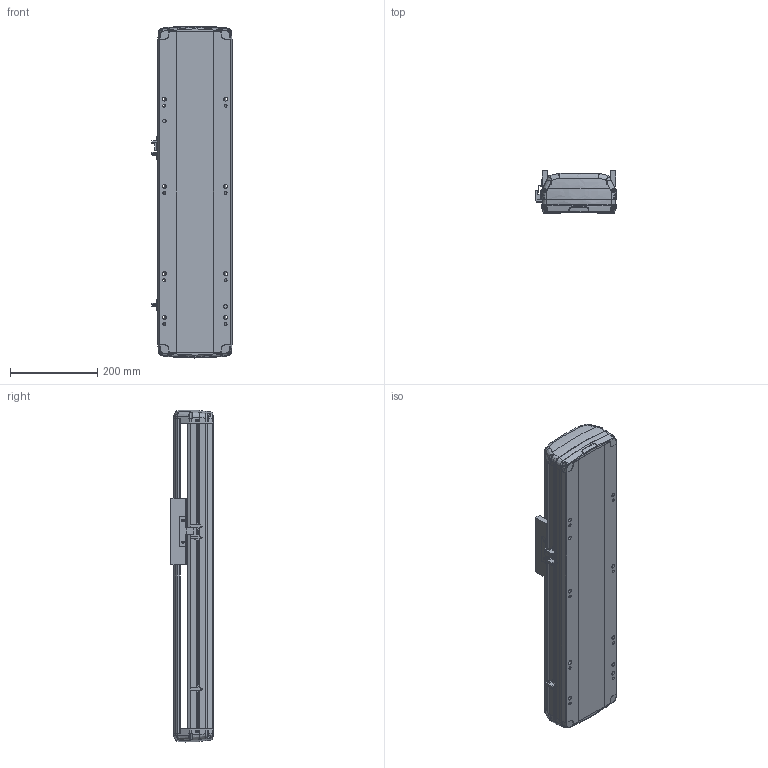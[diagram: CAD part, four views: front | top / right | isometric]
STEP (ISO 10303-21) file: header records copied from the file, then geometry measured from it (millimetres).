
FILE_DESCRIPTION (( 'STEP AP214' ), '1' );
FILE_NAME ('RTH17-XX-350-B-M40-C4.STEP', '2025-10-24T08:31:55', ( '' ), ( '' ), 'SwSTEP 2.0', 'SolidWorks 2018', '' );
FILE_SCHEMA (( 'AUTOMOTIVE_DESIGN' ));
Length unit declared in the file: millimetre
Products named in the file (7): N_RTH17-M-011底座^RTH17-XX-XX-B-M40-C4（方程式）; N_RTH17-E-004丝杆螺母连接座^RTH17-XX-XX-B-M40-C4（方程式）; N_RTH17-GY-001P^RTH17-XX-XX-B-M40-C4（方程式）; RTH17-XX-350-B-M40-C4; N_OMRON EE-SX672 換覜ん^RTH17-XX-XX-B-M40-C4ㄗ源最宒ㄘ; N_RTH-L-012 感应片(外置)^RTH17-XX-XX-B-M40-C4（方程式）; N_RTH17-M-007上盖^RTH17-XX-XX-B-M40-C4（方程式）
Assembly tree (9 placements, depth 2):
  RTH17-XX-350-B-M40-C4
    N_RTH17-M-011底座^RTH17-XX-XX-B-M40-C4（方程式）
    N_RTH17-M-007上盖^RTH17-XX-XX-B-M40-C4（方程式）
    N_OMRON EE-SX672 換覜ん^RTH17-XX-XX-B-M40-C4ㄗ源最宒ㄘ  x3
    N_RTH-L-012 感应片(外置)^RTH17-XX-XX-B-M40-C4（方程式）
    N_RTH17-E-004丝杆螺母连接座^RTH17-XX-XX-B-M40-C4（方程式）
    N_RTH17-GY-001P^RTH17-XX-XX-B-M40-C4（方程式）  x2
Bounding box: 183.5 x 97 x 760.04 mm (x, y, z)
Volume: 5754970.6 mm3; surface area: 843238.5 mm2
Topology: 7 solids, 11 shells, 1704 faces, 4772 edges, 3098 vertices
Faces by surface type: plane 807, cylinder 431, bspline 420, cone 28, torus 18
Entity records: 39510 total; most frequent: CARTESIAN_POINT 16535, ORIENTED_EDGE 5048, DIRECTION 3976, EDGE_CURVE 2528, VERTEX_POINT 1652, VECTOR 1400, LINE 1400, AXIS2_PLACEMENT_3D 1288
